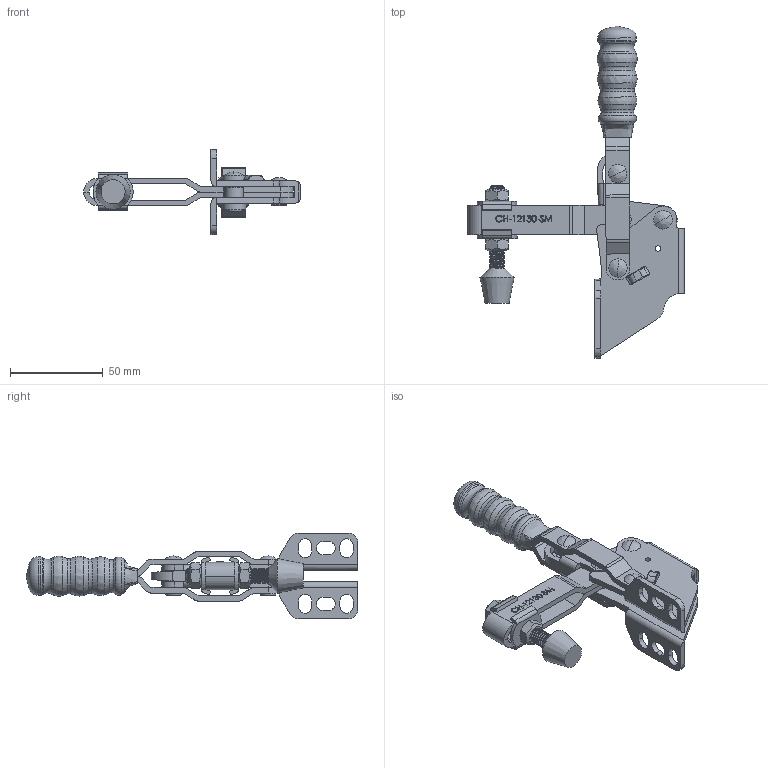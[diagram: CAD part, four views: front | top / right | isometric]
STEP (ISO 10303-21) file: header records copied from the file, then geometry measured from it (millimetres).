
FILE_DESCRIPTION(/* description */ ('STEP AP203'),/* implementation_level */ '2;1');
FILE_NAME(/* name */ 'D:\Vault_2016\Projekty\NASZ KATALOG\CLAMPTEK\STRONA\Vertical toggle clamp\CH-12130-SM\CH-12130-SM_ZAMKNIETY.stp',/* time_stamp */ '2019-01-18T12:39:18+01:00',/* author */ ('CADENGINEERING4'),/* organization */ ('Î¢ÈíÖÐ¹ú'),/* preprocessor_version */ 'ST-DEVELOPER v17.2',/* originating_system */ 'Autodesk Inventor 2019',/* authorisation */ '');
FILE_SCHEMA (('AUTOMOTIVE_DESIGN { 1 0 10303 214 3 1 1 }'));
Products named in the file (12): CH-12130-SM_ZAMKNIETY; CH-12130-04 CONNECTING-PLATE; CH-12130-SM-01 SIDE MOUNTED; CH-12130-03 STRAIGHT HANDLE; CH-FC-56212 Nut; CH-12130-05; CH-12130-08; CH-12130-07; CH-FC-56212 SPINDLE SUPPLIED; CH-12130-06; CH-12130-SM-02 U-BAR; CH-FW-516
Assembly tree (15 placements, depth 2):
  CH-12130-SM_ZAMKNIETY
    CH-12130-04 CONNECTING-PLATE
    CH-12130-SM-01 SIDE MOUNTED
    CH-12130-08  x2
    CH-FW-516  x2
    CH-FC-56212 Nut  x2
    CH-12130-03 STRAIGHT HANDLE
    CH-12130-05
    CH-12130-07
    CH-FC-56212 SPINDLE SUPPLIED
    CH-12130-06  x2
    CH-12130-SM-02 U-BAR
Bounding box: 116.91 x 179.16 x 46 mm (x, y, z)
Volume: 66653.7 mm3; surface area: 50816 mm2
Topology: 18 solids, 18 shells, 781 faces, 2177 edges, 1458 vertices
Faces by surface type: plane 348, bspline 208, cylinder 170, cone 30, torus 25
Full cylindrical faces by diameter (mm): 2.566 x1, 2.984 x1, 3 x2, 6.3 x6, 6.4 x20, 6.8 x1, 7.92 x32, 8.1 x2, 8.4 x2, 10 x1, 20.847 x1
Entity records: 49678 total; most frequent: CARTESIAN_POINT 31649, ORIENTED_EDGE 4046, DIRECTION 3008, EDGE_CURVE 2023, VERTEX_POINT 1362, LINE 1120, VECTOR 1120, AXIS2_PLACEMENT_3D 944
